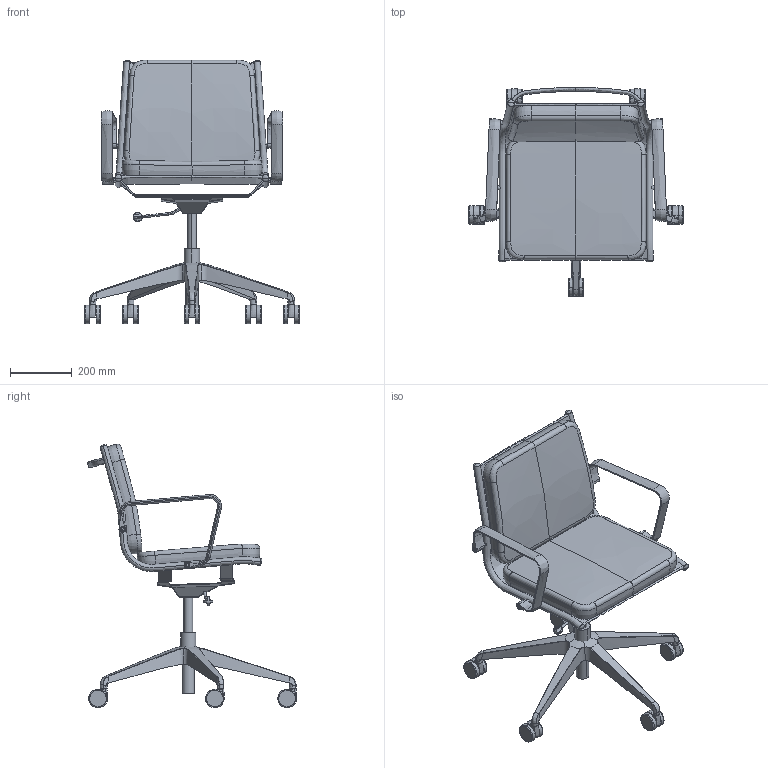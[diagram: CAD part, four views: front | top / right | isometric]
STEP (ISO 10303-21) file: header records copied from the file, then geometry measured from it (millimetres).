
FILE_DESCRIPTION(/* description */ (''),/* implementation_level */ '2;1');
FILE_NAME(/* name */ 'FLY702~1',/* time_stamp */ '2017-10-19T15:03:23+02:00',/* author */ (''),/* organization */ (''),/* preprocessor_version */ 'ST-DEVELOPER v15',/* originating_system */ '',/* authorisation */ '');
FILE_SCHEMA (('CONFIG_CONTROL_DESIGN'));
Length unit declared in the file: millimetre
Products named in the file (1): Document
Bounding box: 694.82 x 677.87 x 855.08 mm (x, y, z)
Volume: 1763630 mm3; surface area: 1991617.6 mm2
Topology: 11 solids, 48 shells, 515 faces, 1250 edges, 753 vertices
Faces by surface type: bspline 390, plane 125
Entity records: 29690 total; most frequent: CARTESIAN_POINT 22661, ORIENTED_EDGE 2270, EDGE_CURVE 1210, VERTEX_POINT 747, B_SPLINE_CURVE_WITH_KNOTS 546, EDGE_LOOP 527, ADVANCED_FACE 515, FACE_OUTER_BOUND 515
